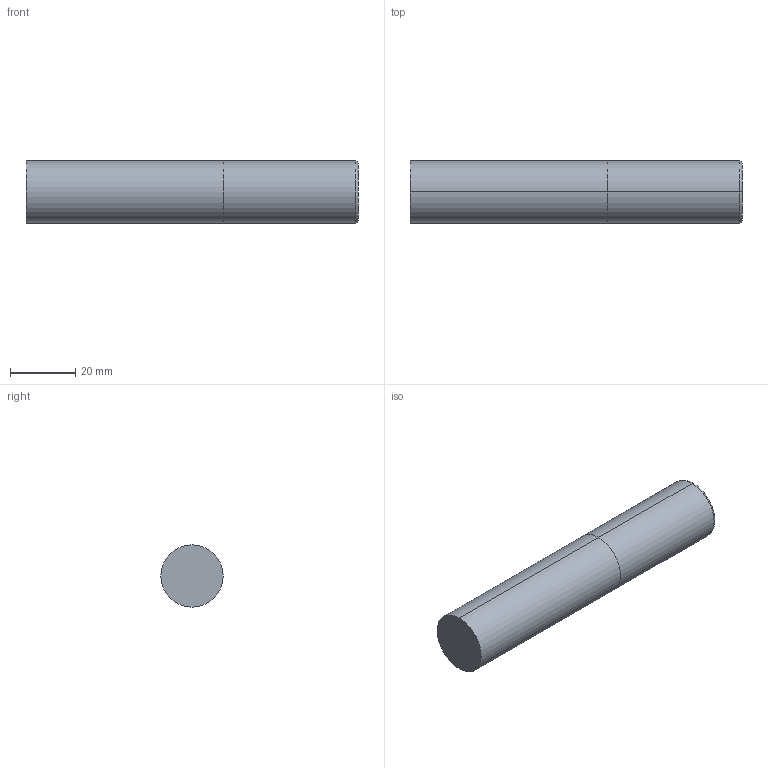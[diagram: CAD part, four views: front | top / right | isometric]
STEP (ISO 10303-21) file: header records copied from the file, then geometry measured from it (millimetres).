
FILE_DESCRIPTION (( 'STEP AP214' ), '1' );
FILE_NAME ('SSI50750-030.STEP', '2025-05-23T15:22:08', ( '' ), ( '' ), 'SwSTEP 2.0', 'SolidWorks 2023', '' );
FILE_SCHEMA (( 'AUTOMOTIVE_DESIGN' ));
Length unit declared in the file: inch
Products named in the file (3): SSI5 Imperial SHANK ONLY_SSI50750-030; SSI5 Imperial LOC ONLY_SSI50750-030; SSI50750-030
Assembly tree (2 placements, depth 2):
  SSI50750-030
    SSI5 Imperial LOC ONLY_SSI50750-030
    SSI5 Imperial SHANK ONLY_SSI50750-030
Bounding box: 101.6 x 19.05 x 19.05 mm (x, y, z)
Volume: 28951 mm3; surface area: 7200.8 mm2
Topology: 2 solids, 2 shells, 10 faces, 16 edges, 10 vertices
Faces by surface type: cylinder 4, plane 4, torus 2
Entity records: 412 total; most frequent: DIRECTION 58, CARTESIAN_POINT 41, ORIENTED_EDGE 32, AXIS2_PLACEMENT_3D 27, EDGE_CURVE 16, CIRCLE 12, LENGTH_MEASURE_WITH_UNIT 11, DIMENSIONAL_EXPONENTS 11
